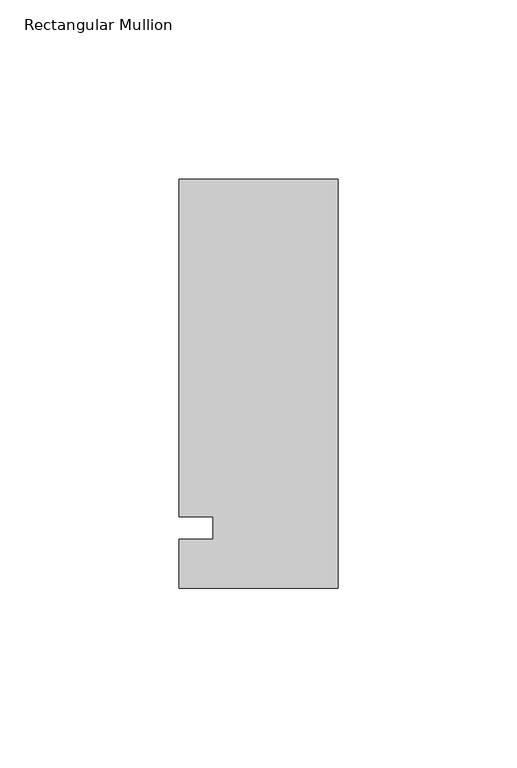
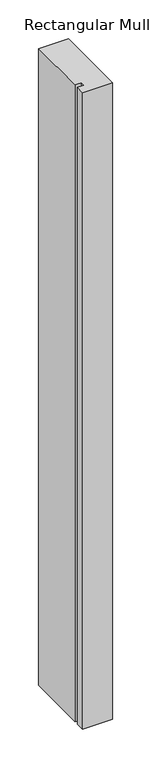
"""IFC4 building model written with IfcOpenShell, lengths in millimetres: member geometry, Rectangular Mullion : Kawneer-TRIFAB_VG_450_BACK_SB_Sill."""

from ifc_helpers import new_model, si_unit, frame, origin, place, context, project, spatial, polyline, outline, extrude, source, transform, mapped, element, save


def rectangular_mullion_669ae467(model_context):
    return source(origin(), model_context, "Body", "SweptSolid", [
        extrude(outline(polyline([(-44.45, -16.8840492), (-44.45, -3.175), (-34.925, -3.175), (-34.925, 3.175), (-44.45, 3.175), (-44.45, 97.4159508), (0.0, 97.4159508), (0.0, -16.8840492), (-44.45, -16.8840492)])), frame((0.0, 0.0, -1004.1094133), z_axis=(0.0, 0.0, 1.0), x_axis=(1.0, 0.0, 0.0)), (0.0, 0.0, 1.0), 1004.1094133),
    ])


if __name__ == "__main__":
    model = new_model("IFC4")
    model_context = context("Model", 3, world=origin())
    ifc_project = project(units=[si_unit("LENGTHUNIT", "METRE", prefix="MILLI")], contexts=[model_context])
    site = spatial("IfcSite", under=ifc_project)
    building = spatial("IfcBuilding", under=site)
    placement = place(None, origin())
    rectangular_mullion_shape = rectangular_mullion_669ae467(model_context)
    element("IfcMember", 1, ObjectType="Rectangular Mullion : Kawneer-TRIFAB_VG_450_BACK_SB_Sill", at=placement, inside=building, context=model_context, shape_type="MappedRepresentation", body=[
        mapped(rectangular_mullion_shape, transform((0.0, 0.0, 0.0), x_axis=(1.0, 0.0, 0.0), y_axis=(0.0, 1.0, 0.0), z_axis=(0.0, 0.0, 1.0))),
    ])
    save(model, "model.ifc")
